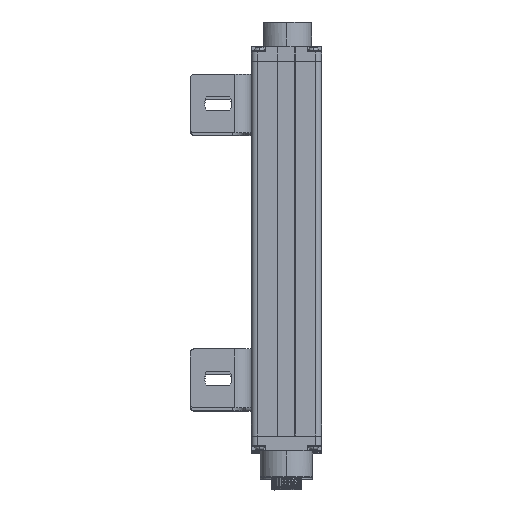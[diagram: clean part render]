
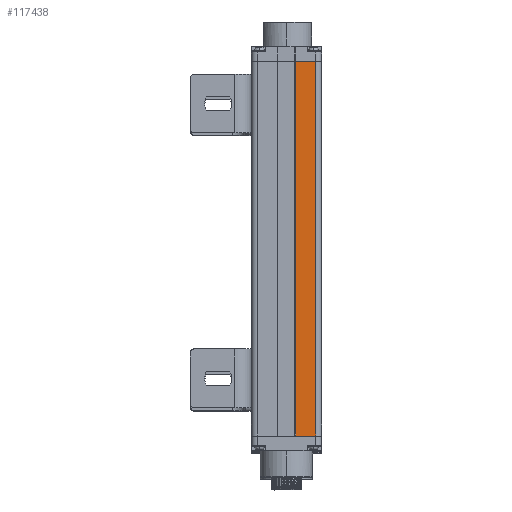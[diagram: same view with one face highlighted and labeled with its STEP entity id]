
A CAD part, top view. The second image highlights one B-rep face of the part: STEP entity #117438.
In plain terms, the highlighted planar face has unit normal (0, 0.001, 1).
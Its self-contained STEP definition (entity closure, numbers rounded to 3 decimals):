
#6716 = FACE_OUTER_BOUND ( 'NONE', #135624, .T. ) ;
#12309 = ORIENTED_EDGE ( 'NONE', *, *, #56548, .F. ) ;
#26923 = ORIENTED_EDGE ( 'NONE', *, *, #81839, .F. ) ;
#30323 = LINE ( 'NONE', #76361, #52454 ) ;
#30361 = CARTESIAN_POINT ( 'NONE',  ( 12.89, 185., 25.075 ) ) ;
#35642 = LINE ( 'NONE', #112430, #182388 ) ;
#50401 = LINE ( 'NONE', #77311, #125988 ) ;
#52454 = VECTOR ( 'NONE', #88803, 1000. ) ;
#52717 = VERTEX_POINT ( 'NONE', #171146 ) ;
#55039 = VECTOR ( 'NONE', #99963, 1000. ) ;
#56548 = EDGE_CURVE ( 'NONE', #128928, #64886, #35642, .T. ) ;
#64886 = VERTEX_POINT ( 'NONE', #170695 ) ;
#74846 = DIRECTION ( 'NONE',  ( 1., 0., 0. ) ) ;
#76361 = CARTESIAN_POINT ( 'NONE',  ( 0., 185., 25.075 ) ) ;
#77311 = CARTESIAN_POINT ( 'NONE',  ( 3.005, 0., 25.075 ) ) ;
#81839 = EDGE_CURVE ( 'NONE', #52717, #128928, #30323, .T. ) ;
#88803 = DIRECTION ( 'NONE',  ( 1., 0., 0. ) ) ;
#99963 = DIRECTION ( 'NONE',  ( 0., -1., 0. ) ) ;
#112430 = CARTESIAN_POINT ( 'NONE',  ( 12.89, 0., 25.075 ) ) ;
#113277 = ORIENTED_EDGE ( 'NONE', *, *, #135935, .T. ) ;
#113886 = AXIS2_PLACEMENT_3D ( 'NONE', #113890, #158540, #170417 ) ;
#113890 = CARTESIAN_POINT ( 'NONE',  ( 3.005, 0., 25.075 ) ) ;
#117438 = ADVANCED_FACE ( 'NONE', ( #6716 ), #172218, .T. ) ;
#125988 = VECTOR ( 'NONE', #74846, 1000. ) ;
#126102 = DIRECTION ( 'NONE',  ( 0., -1., 0. ) ) ;
#128928 = VERTEX_POINT ( 'NONE', #30361 ) ;
#129965 = ORIENTED_EDGE ( 'NONE', *, *, #140869, .T. ) ;
#135624 = EDGE_LOOP ( 'NONE', ( #113277, #129965, #12309, #26923 ) ) ;
#135935 = EDGE_CURVE ( 'NONE', #52717, #178504, #139524, .T. ) ;
#139524 = LINE ( 'NONE', #170794, #55039 ) ;
#140869 = EDGE_CURVE ( 'NONE', #178504, #64886, #50401, .T. ) ;
#158540 = DIRECTION ( 'NONE',  ( 0., 0., 1. ) ) ;
#170417 = DIRECTION ( 'NONE',  ( 1., 0., 0. ) ) ;
#170695 = CARTESIAN_POINT ( 'NONE',  ( 12.89, 0., 25.075 ) ) ;
#170794 = CARTESIAN_POINT ( 'NONE',  ( 3.005, 0., 25.075 ) ) ;
#171146 = CARTESIAN_POINT ( 'NONE',  ( 3.005, 185., 25.075 ) ) ;
#172218 = PLANE ( 'NONE',  #113886 ) ;
#174637 = CARTESIAN_POINT ( 'NONE',  ( 3.005, 0., 25.075 ) ) ;
#178504 = VERTEX_POINT ( 'NONE', #174637 ) ;
#182388 = VECTOR ( 'NONE', #126102, 1000. ) ;
